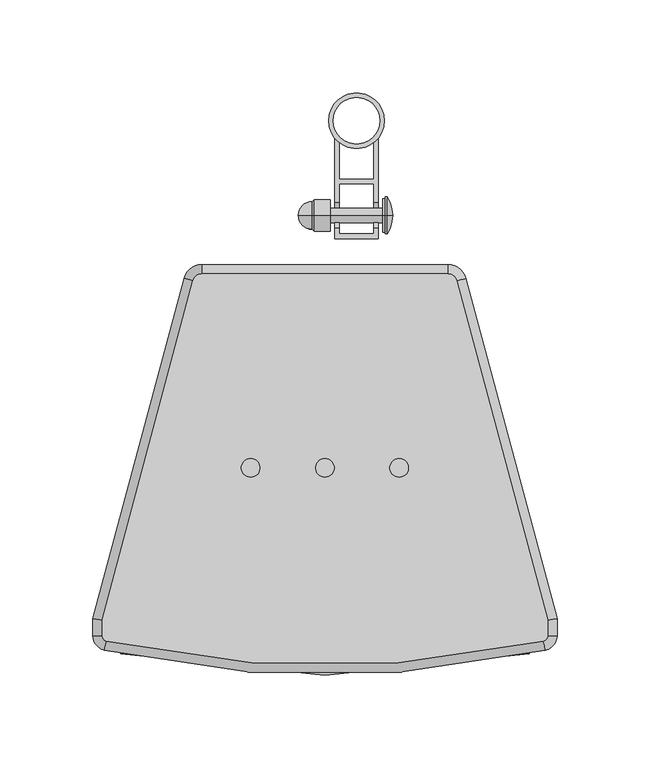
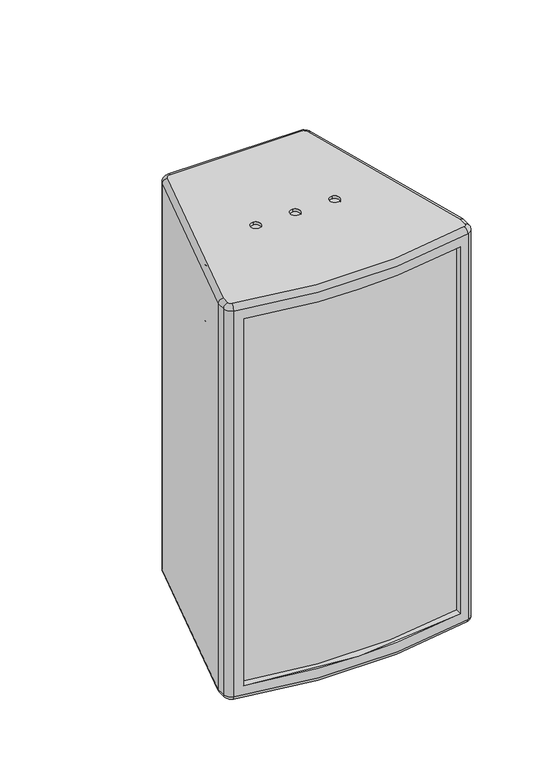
"""IFC4 building model written with IfcOpenShell, lengths in millimetres: proxy geometry, ePS8-WM01-WVM : ePS8-WM01-WVM."""

from ifc_helpers import new_model, si_unit, point, frame, frame_2d, origin, place, context, project, spatial, polyline, circle_curve, ellipse_curve, trimmed, segment, composite_curve, outline, extrude, source, transform, mapped, element, save
from ifc_brep_helpers import plane_surface, cylinder_surface, revolved_surface, advanced_brep


def generic_models_87593104(model_context):
    return source(origin(), model_context, "Body", "SolidModel", [
        advanced_brep(
        [(92.9999424, -313.0641688, 145.5390379), (92.9999424, -306.2137672, 145.5390379), (92.9999424, -306.2137672, -247.4609621), (92.9999424, -313.0641688, -247.4609621), (-88.0680581, -112.2059048, 160.5390379), (-137.0000576, -294.822613, 160.5390379), (-137.0000576, -303.3294755, 160.5390379), (-134.670601, -306.2535773, 160.5390379), (100.6704859, -306.2535773, 160.5390379), (102.9999424, -303.3294755, 160.5390379), (102.9999424, -294.822613, 160.5390379), (54.067943, -112.2059048, 160.5390379), (49.2383138, -108.5, 160.5390379), (-83.2384289, -108.5, 160.5390379), (-17.0000576, -218.0, 160.5390379), (-17.0000576, -208.0, 160.5390379), (-57.0000576, -218.0, 160.5390379), (-57.0000576, -208.0, 160.5390379), (22.9999424, -218.0, 160.5390379), (22.9999424, -208.0, 160.5390379), (-137.0000576, -294.822613, -262.4609621), (-88.0680581, -112.2059048, -262.4609621), (-83.2384289, -108.5, -262.4609621), (49.2383138, -108.5, -262.4609621), (54.067943, -112.2059048, -262.4609621), (102.9999424, -294.822613, -262.4609621), (102.9999424, -303.3294755, -262.4609621), (100.6704859, -306.2535773, -262.4609621), (-134.670601, -306.2535773, -262.4609621), (-137.0000576, -303.3294755, -262.4609621), (-17.0000576, -208.0, -262.4609621), (-17.0000576, -218.0, -262.4609621), (-57.0000576, -208.0, -262.4609621), (-57.0000576, -218.0, -262.4609621), (22.9999424, -208.0, -262.4609621), (22.9999424, -218.0, -262.4609621), (-83.2384289, -103.5, 155.5390379), (49.2383138, -103.5, 155.5390379), (49.2383138, -103.5, -257.4609621), (-83.2384289, -103.5, -257.4609621), (-64.3433398, -103.5, -30.9566602), (-75.6566602, -103.5, -30.9566602), (5.6566602, -103.5, -30.9566602), (-5.6566602, -103.5, -30.9566602), (5.6566602, -103.5, 39.0433398), (-5.6566602, -103.5, 39.0433398), (101.7880584, -311.1270803, 155.5390379), (-135.7881735, -311.1270803, 155.5390379), (-135.7881735, -311.1270803, -257.460962), (101.7880584, -311.1270803, -257.4609621), (-127.0000576, -313.0641688, 145.5390379), (-127.0000576, -313.0641688, -247.4609621), (107.9999424, -303.3294755, 155.5390379), (107.9999424, -303.3294755, -257.4609621), (107.9999424, -294.1643505, 155.5390379), (107.9999424, -294.1643505, -257.4609621), (58.8975721, -110.9118096, 155.5390379), (58.8975721, -110.9118096, -257.4609621), (-92.8976872, -110.9118096, 155.5390379), (-92.8976872, -110.9118096, -257.4609621), (-142.0000576, -294.1643505, 155.5390379), (-142.0000576, -294.1643505, -257.4609621), (-142.0000576, -303.3294755, 155.5390379), (-142.0000576, -303.3294755, -257.4609621), (-17.0000576, -208.0, 157.5390379), (-17.0000576, -218.0, 157.5390379), (-57.0000576, -208.0, 157.5390379), (-57.0000576, -218.0, 157.5390379), (22.9999424, -208.0, 157.5390379), (22.9999424, -218.0, 157.5390379), (-127.0000576, -306.3234349, 145.5390379), (-127.0000576, -306.3234349, -247.4609621), (-17.0000576, -208.0, -259.4609621), (-17.0000576, -218.0, -259.4609621), (-57.0000576, -208.0, -259.4609621), (-57.0000576, -218.0, -259.4609621), (22.9999424, -208.0, -259.4609621), (22.9999424, -218.0, -259.4609621), (-64.3433398, -106.5, -30.9566602), (-75.6566602, -106.5, -30.9566602), (5.6566602, -106.5, -30.9566602), (-5.6566602, -106.5, -30.9566602), (5.6566602, -106.5, 39.0433398), (-5.6566602, -106.5, 39.0433398)],
        [
            (0, 1),
            (1, 2),
            (2, 3),
            (3, 0),
            (4, 5),
            (5, 6),
            (6, 7, circle_curve(frame((-134.0000576, -303.3294755, 160.5390379), z_axis=(0.0, 0.0, 1.0), x_axis=(-0.22351449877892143, -0.9747006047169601, 0.0)), 3.0)),
            (7, 8, circle_curve(frame((-17.0000576, 206.8833804, 160.5390379), z_axis=(0.0, 0.0, 1.0), x_axis=(0.22351449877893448, -0.974700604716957, 0.0)), 526.4559755)),
            (8, 9, circle_curve(frame((99.9999424, -303.3294755, 160.5390379), z_axis=(0.0, 0.0, 1.0), x_axis=(1.0, 0.0, 0.0)), 3.0)),
            (9, 10),
            (10, 11),
            (11, 12, circle_curve(frame((49.2383138, -113.5, 160.5390379), z_axis=(0.0, 0.0, 1.0), x_axis=(0.0, 1.0, 0.0)), 5.0)),
            (12, 13),
            (13, 4, circle_curve(frame((-83.2384289, -113.5, 160.5390379), z_axis=(0.0, 0.0, 1.0), x_axis=(-0.965925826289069, 0.2588190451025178, 0.0)), 5.0)),
            (14, 15, circle_curve(frame((-17.0000576, -213.0, 160.5390379), z_axis=(0.0, 0.0, -1.0), x_axis=(0.0, -1.0, 0.0)), 5.0)),
            (15, 14, circle_curve(frame((-17.0000576, -213.0, 160.5390379), z_axis=(0.0, 0.0, -1.0), x_axis=(0.0, -1.0, 0.0)), 5.0)),
            (16, 17, circle_curve(frame((-57.0000576, -213.0, 160.5390379), z_axis=(0.0, 0.0, -1.0), x_axis=(0.0, -1.0, 0.0)), 5.0)),
            (17, 16, circle_curve(frame((-57.0000576, -213.0, 160.5390379), z_axis=(0.0, 0.0, -1.0), x_axis=(0.0, -1.0, 0.0)), 5.0)),
            (18, 19, circle_curve(frame((22.9999424, -213.0, 160.5390379), z_axis=(0.0, 0.0, -1.0), x_axis=(0.0, -1.0, 0.0)), 5.0)),
            (19, 18, circle_curve(frame((22.9999424, -213.0, 160.5390379), z_axis=(0.0, 0.0, -1.0), x_axis=(0.0, -1.0, 0.0)), 5.0)),
            (20, 21),
            (21, 22, circle_curve(frame((-83.2384289, -113.5, -262.4609621), z_axis=(0.0, 0.0, -1.0), x_axis=(-0.96592582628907, 0.25881904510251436, 0.0)), 5.0)),
            (22, 23),
            (23, 24, circle_curve(frame((49.2383138, -113.5, -262.4609621), z_axis=(0.0, 0.0, -1.0), x_axis=(0.0, 1.0, 0.0)), 5.0)),
            (24, 25),
            (25, 26),
            (26, 27, circle_curve(frame((99.9999424, -303.3294755, -262.4609621), z_axis=(0.0, 0.0, -1.0), x_axis=(1.0, 0.0, 0.0)), 3.0)),
            (27, 28, circle_curve(frame((-17.0000576, 206.8833804, -262.4609621), z_axis=(0.0, 0.0, -1.0), x_axis=(0.22351449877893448, -0.974700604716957, 0.0)), 526.4559755)),
            (28, 29, circle_curve(frame((-134.0000576, -303.3294755, -262.4609621), z_axis=(0.0, 0.0, -1.0), x_axis=(-0.22351449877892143, -0.9747006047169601, 0.0)), 3.0)),
            (29, 20),
            (30, 31, circle_curve(frame((-17.0000576, -213.0, -262.4609621), z_axis=(0.0, 0.0, 1.0), x_axis=(0.0, -1.0, 0.0)), 5.0)),
            (31, 30, circle_curve(frame((-17.0000576, -213.0, -262.4609621), z_axis=(0.0, 0.0, 1.0), x_axis=(0.0, -1.0, 0.0)), 5.0)),
            (32, 33, circle_curve(frame((-57.0000576, -213.0, -262.4609621), z_axis=(0.0, 0.0, 1.0), x_axis=(0.0, -1.0, 0.0)), 5.0)),
            (33, 32, circle_curve(frame((-57.0000576, -213.0, -262.4609621), z_axis=(0.0, 0.0, 1.0), x_axis=(0.0, -1.0, 0.0)), 5.0)),
            (34, 35, circle_curve(frame((22.9999424, -213.0, -262.4609621), z_axis=(0.0, 0.0, 1.0), x_axis=(0.0, -1.0, 0.0)), 5.0)),
            (35, 34, circle_curve(frame((22.9999424, -213.0, -262.4609621), z_axis=(0.0, 0.0, 1.0), x_axis=(0.0, -1.0, 0.0)), 5.0)),
            (36, 37),
            (37, 38),
            (38, 39),
            (39, 36),
            (40, 41, circle_curve(frame((-70.0, -103.5, -30.9566602), z_axis=(0.0, -1.0, 0.0), x_axis=(-1.0, 0.0, 0.0)), 5.6566602)),
            (41, 40, circle_curve(frame((-70.0, -103.5, -30.9566602), z_axis=(0.0, -1.0, 0.0), x_axis=(-1.0, 0.0, 0.0)), 5.6566602)),
            (42, 43, circle_curve(frame((0.0, -103.5, -30.9566602), z_axis=(0.0, -1.0, 0.0), x_axis=(-1.0, 0.0, 0.0)), 5.6566602)),
            (43, 42, circle_curve(frame((0.0, -103.5, -30.9566602), z_axis=(0.0, -1.0, 0.0), x_axis=(-1.0, 0.0, 0.0)), 5.6566602)),
            (44, 45, circle_curve(frame((0.0, -103.5, 39.0433398), z_axis=(0.0, -1.0, 0.0), x_axis=(-1.0, 0.0, 0.0)), 5.6566602)),
            (45, 44, circle_curve(frame((0.0, -103.5, 39.0433398), z_axis=(0.0, -1.0, 0.0), x_axis=(-1.0, 0.0, 0.0)), 5.6566602)),
            (46, 47, circle_curve(frame((-17.0000576, 206.8833804, 155.5390379), z_axis=(0.0, 0.0, -1.0), x_axis=(1.0, 0.0, 0.0)), 531.4559755)),
            (47, 48),
            (48, 49, circle_curve(frame((-17.0000576, 206.8833804, -257.4609621), z_axis=(0.0, 0.0, 1.0), x_axis=(1.0, 0.0, 0.0)), 531.4559755)),
            (49, 46),
            (50, 0, circle_curve(frame((-17.0000576, 206.8833804, 145.5390379), z_axis=(0.0, 0.0, 1.0), x_axis=(1.0, 0.0, 0.0)), 531.4559755)),
            (3, 51, circle_curve(frame((-17.0000576, 206.8833804, -247.4609621), z_axis=(0.0, 0.0, -1.0), x_axis=(1.0, 0.0, 0.0)), 531.4559755)),
            (51, 50),
            (52, 46, circle_curve(frame((99.9999424, -303.3294755, 155.5390379), z_axis=(0.0, 0.0, -1.0), x_axis=(1.0, 0.0, 0.0)), 8.0)),
            (49, 53, circle_curve(frame((99.9999424, -303.3294755, -257.4609621), z_axis=(0.0, 0.0, 1.0), x_axis=(1.0, 0.0, 0.0)), 8.0)),
            (53, 52),
            (54, 52),
            (53, 55),
            (55, 54),
            (56, 54),
            (55, 57),
            (57, 56),
            (37, 56, circle_curve(frame((49.2383138, -113.5, 155.5390379), z_axis=(0.0, 0.0, -1.0), x_axis=(1.0, 0.0, 0.0)), 10.0)),
            (57, 38, circle_curve(frame((49.2383138, -113.5, -257.4609621), z_axis=(0.0, 0.0, 1.0), x_axis=(1.0, 0.0, 0.0)), 10.0)),
            (58, 36, circle_curve(frame((-83.2384289, -113.5, 155.5390379), z_axis=(0.0, 0.0, -1.0), x_axis=(1.0, 0.0, 0.0)), 10.0)),
            (39, 59, circle_curve(frame((-83.2384289, -113.5, -257.4609621), z_axis=(0.0, 0.0, 1.0), x_axis=(1.0, 0.0, 0.0)), 10.0)),
            (59, 58),
            (60, 58),
            (59, 61),
            (61, 60),
            (62, 60),
            (61, 63),
            (63, 62),
            (47, 62, circle_curve(frame((-134.0000576, -303.3294755, 155.5390379), z_axis=(0.0, 0.0, -1.0), x_axis=(1.0, 0.0, 0.0)), 8.0)),
            (63, 48, circle_curve(frame((-134.0000576, -303.3294755, -257.4609621), z_axis=(0.0, 0.0, 1.0), x_axis=(1.0, 0.0, 0.0)), 8.0)),
            (64, 65, circle_curve(frame((-17.0000576, -213.0, 157.5390379), z_axis=(0.0, 0.0, 1.0), x_axis=(0.0, -1.0, 0.0)), 5.0)),
            (65, 64, circle_curve(frame((-17.0000576, -213.0, 157.5390379), z_axis=(0.0, 0.0, 1.0), x_axis=(0.0, -1.0, 0.0)), 5.0)),
            (66, 67, circle_curve(frame((-57.0000576, -213.0, 157.5390379), z_axis=(0.0, 0.0, 1.0), x_axis=(0.0, -1.0, 0.0)), 5.0)),
            (67, 66, circle_curve(frame((-57.0000576, -213.0, 157.5390379), z_axis=(0.0, 0.0, 1.0), x_axis=(0.0, -1.0, 0.0)), 5.0)),
            (68, 69, circle_curve(frame((22.9999424, -213.0, 157.5390379), z_axis=(0.0, 0.0, 1.0), x_axis=(0.0, -1.0, 0.0)), 5.0)),
            (69, 68, circle_curve(frame((22.9999424, -213.0, 157.5390379), z_axis=(0.0, 0.0, 1.0), x_axis=(0.0, -1.0, 0.0)), 5.0)),
            (64, 15),
            (14, 65),
            (66, 17),
            (16, 67),
            (68, 19),
            (18, 69),
            (50, 70),
            (70, 1, circle_curve(frame((-17.2541484, 203.4531533, 145.5390379), z_axis=(0.0, 0.0, 1.0), x_axis=(1.0, 0.0, 0.0)), 521.4559755)),
            (2, 71, circle_curve(frame((-17.2541484, 203.4531533, -247.4609621), z_axis=(0.0, 0.0, -1.0), x_axis=(1.0, 0.0, 0.0)), 521.4559755)),
            (71, 51),
            (70, 71),
            (4, 58, circle_curve(frame((-88.0680581, -112.2059048, 155.5390379), z_axis=(-0.2588190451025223, -0.9659258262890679, 0.0), x_axis=(-0.9659258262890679, 0.2588190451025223, 0.0)), 5.0)),
            (60, 5, ellipse_curve(frame((-137.0000576, -294.822613, 155.5390379), z_axis=(0.13052619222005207, 0.9914448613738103, 0.0), x_axis=(0.9914448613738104, -0.13052619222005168, 0.0)), 5.0431448, 5.0)),
            (13, 36, circle_curve(frame((-83.2384289, -108.5, 155.5390379), z_axis=(-0.9999999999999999, 0.0, 0.0), x_axis=(0.0, 0.9999999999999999, 0.0)), 5.0)),
            (12, 37, circle_curve(frame((49.2383138, -108.5, 155.5390379), z_axis=(-1.0, 0.0, 0.0), x_axis=(0.0, 1.0, 0.0)), 5.0)),
            (11, 56, circle_curve(frame((54.067943, -112.2059048, 155.5390379), z_axis=(-0.25881904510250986, 0.9659258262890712, 0.0), x_axis=(0.9659258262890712, 0.25881904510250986, 0.0)), 5.0)),
            (10, 54, ellipse_curve(frame((102.9999424, -294.822613, 155.5390379), z_axis=(-0.13052619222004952, 0.9914448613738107, 0.0), x_axis=(0.9914448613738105, 0.1305261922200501, 0.0)), 5.0431448, 5.0)),
            (62, 6, circle_curve(frame((-137.0000576, -303.3294755, 155.5390379), z_axis=(0.0, 1.0, 0.0), x_axis=(-1.0, 0.0, 0.0)), 5.0)),
            (9, 52, circle_curve(frame((102.9999424, -303.3294755, 155.5390379), z_axis=(0.0, 1.0, 0.0), x_axis=(1.0, 0.0, 0.0)), 5.0)),
            (8, 46, circle_curve(frame((100.6704859, -306.2535773, 155.5390379), z_axis=(0.9747006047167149, 0.22351449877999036, 0.0), x_axis=(0.22351449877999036, -0.9747006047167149, 0.0)), 5.0)),
            (7, 47, circle_curve(frame((-134.670601, -306.2535773, 155.5390379), z_axis=(0.9747006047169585, -0.22351449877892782, 0.0), x_axis=(-0.22351449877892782, -0.9747006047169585, 0.0)), 5.0)),
            (59, 21, circle_curve(frame((-88.0680581, -112.2059048, -257.4609621), z_axis=(-0.25881904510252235, -0.9659258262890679, 0.0), x_axis=(-0.9659258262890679, 0.25881904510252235, 0.0)), 5.0)),
            (20, 61, ellipse_curve(frame((-137.0000576, -294.822613, -257.4609621), z_axis=(0.1305261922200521, 0.9914448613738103, 0.0), x_axis=(0.9914448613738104, -0.13052619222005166, 0.0)), 5.0431448, 5.0)),
            (39, 22, circle_curve(frame((-83.2384289, -108.5, -257.4609621), z_axis=(-1.0, 0.0, 0.0), x_axis=(0.0, 1.0, 0.0)), 5.0)),
            (38, 23, circle_curve(frame((49.2383138, -108.5, -257.4609621), z_axis=(-1.0, 0.0, 0.0), x_axis=(0.0, 1.0, 0.0)), 5.0)),
            (57, 24, circle_curve(frame((54.067943, -112.2059048, -257.4609621), z_axis=(-0.2588190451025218, 0.9659258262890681, 0.0), x_axis=(0.9659258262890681, 0.2588190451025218, 0.0)), 5.0)),
            (55, 25, ellipse_curve(frame((102.9999424, -294.822613, -257.4609621), z_axis=(-0.13052619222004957, 0.9914448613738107, 0.0), x_axis=(0.9914448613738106, 0.13052619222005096, 0.0)), 5.0431448, 5.0)),
            (29, 63, circle_curve(frame((-137.0000576, -303.3294755, -257.4609621), z_axis=(0.0, 1.0, 0.0), x_axis=(-1.0, 0.0, 0.0)), 5.0)),
            (53, 26, circle_curve(frame((102.9999424, -303.3294755, -257.4609621), z_axis=(0.0, 1.0, 0.0), x_axis=(1.0, 0.0, 0.0)), 5.0)),
            (49, 27, circle_curve(frame((100.6704859, -306.2535773, -257.4609621), z_axis=(0.9747006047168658, 0.22351449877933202, 0.0), x_axis=(0.22351449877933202, -0.9747006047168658, 0.0)), 5.0)),
            (48, 28, circle_curve(frame((-134.670601, -306.2535773, -257.4609621), z_axis=(0.9747006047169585, -0.22351449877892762, 0.0), x_axis=(-0.22351449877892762, -0.9747006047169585, 0.0)), 5.0)),
            (72, 73, circle_curve(frame((-17.0000576, -213.0, -259.4609621), z_axis=(0.0, 0.0, -1.0), x_axis=(0.0, -1.0, 0.0)), 5.0)),
            (73, 72, circle_curve(frame((-17.0000576, -213.0, -259.4609621), z_axis=(0.0, 0.0, -1.0), x_axis=(0.0, -1.0, 0.0)), 5.0)),
            (74, 75, circle_curve(frame((-57.0000576, -213.0, -259.4609621), z_axis=(0.0, 0.0, -1.0), x_axis=(0.0, -1.0, 0.0)), 5.0)),
            (75, 74, circle_curve(frame((-57.0000576, -213.0, -259.4609621), z_axis=(0.0, 0.0, -1.0), x_axis=(0.0, -1.0, 0.0)), 5.0)),
            (76, 77, circle_curve(frame((22.9999424, -213.0, -259.4609621), z_axis=(0.0, 0.0, -1.0), x_axis=(0.0, -1.0, 0.0)), 5.0)),
            (77, 76, circle_curve(frame((22.9999424, -213.0, -259.4609621), z_axis=(0.0, 0.0, -1.0), x_axis=(0.0, -1.0, 0.0)), 5.0)),
            (73, 31),
            (30, 72),
            (75, 33),
            (32, 74),
            (77, 35),
            (34, 76),
            (78, 79, circle_curve(frame((-70.0, -106.5, -30.9566602), z_axis=(0.0, 1.0, 0.0), x_axis=(-1.0, 0.0, 0.0)), 5.6566602)),
            (79, 78, circle_curve(frame((-70.0, -106.5, -30.9566602), z_axis=(0.0, 1.0, 0.0), x_axis=(-1.0, 0.0, 0.0)), 5.6566602)),
            (80, 81, circle_curve(frame((0.0, -106.5, -30.9566602), z_axis=(0.0, 1.0, 0.0), x_axis=(-1.0, 0.0, 0.0)), 5.6566602)),
            (81, 80, circle_curve(frame((0.0, -106.5, -30.9566602), z_axis=(0.0, 1.0, 0.0), x_axis=(-1.0, 0.0, 0.0)), 5.6566602)),
            (82, 83, circle_curve(frame((0.0, -106.5, 39.0433398), z_axis=(0.0, 1.0, 0.0), x_axis=(-1.0, 0.0, 0.0)), 5.6566602)),
            (83, 82, circle_curve(frame((0.0, -106.5, 39.0433398), z_axis=(0.0, 1.0, 0.0), x_axis=(-1.0, 0.0, 0.0)), 5.6566602)),
            (79, 41),
            (40, 78),
            (81, 43),
            (42, 80),
            (83, 45),
            (44, 82),
        ],
        [
            plane_surface(frame((92.9999424, -313.0641688, 145.5390379), z_axis=(-1.0, 0.0, 0.0), x_axis=(0.0, 0.0, -1.0))),
            plane_surface(frame((107.9999424, -303.3294755, 160.5390379), z_axis=(0.0, 0.0, 1.0), x_axis=(0.0, 1.0, 0.0))),
            plane_surface(frame((107.9999424, -303.3294755, -262.4609621), z_axis=(0.0, 0.0, -1.0), x_axis=(0.0, -1.0, 0.0))),
            plane_surface(frame((49.2383138, -103.5, 160.5390379), z_axis=(0.0, 1.0, 0.0), x_axis=(0.0, 0.0, -1.0))),
            cylinder_surface(frame((-17.0000576, 206.8833804, -262.4609621), z_axis=(0.0, 0.0, 1.0), x_axis=(1.0, 0.0, 0.0)), 531.4559755),
            cylinder_surface(frame((99.9999424, -303.3294755, -262.4609621), z_axis=(0.0, 0.0, 1.0), x_axis=(1.0, 0.0, 0.0)), 8.0),
            plane_surface(frame((107.9999424, -303.3294755, 160.5390379), z_axis=(1.0, 0.0, 0.0), x_axis=(0.0, 0.0, -1.0))),
            plane_surface(frame((107.9999424, -294.1643505, 160.5390379), z_axis=(0.9659258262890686, 0.25881904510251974, 0.0), x_axis=(0.0, 0.0, -1.0))),
            cylinder_surface(frame((49.2383138, -113.5, -262.4609621), z_axis=(0.0, 0.0, 1.0), x_axis=(1.0, 0.0, 0.0)), 10.0),
            cylinder_surface(frame((-83.2384289, -113.5, -262.4609621), z_axis=(0.0, 0.0, 1.0), x_axis=(1.0, 0.0, 0.0)), 10.0),
            plane_surface(frame((-92.8976872, -110.9118096, 160.5390379), z_axis=(-0.965925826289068, 0.2588190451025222, 0.0), x_axis=(0.0, 0.0, -1.0))),
            plane_surface(frame((-142.0000576, -294.1643505, 160.5390379), z_axis=(-1.0, 0.0, 0.0), x_axis=(0.0, 0.0, -1.0))),
            cylinder_surface(frame((-134.0000576, -303.3294755, -262.4609621), z_axis=(0.0, 0.0, 1.0), x_axis=(1.0, 0.0, 0.0)), 8.0),
            plane_surface(frame((-17.0000576, -218.0, 157.5390379), z_axis=(0.0, 0.0, 1.0), x_axis=(-1.0, 0.0, 0.0))),
            revolved_surface(polyline([(-17.0000576, -218.0, 160.5390379), (-17.0000576, -218.0, 157.5390379)]), (-17.0000576, -213.0, 157.5390379), (0.0, 0.0, 1.0)),
            revolved_surface(polyline([(-57.0000576, -218.0, 160.5390379), (-57.0000576, -218.0, 157.5390379)]), (-57.0000576, -213.0, 160.5390379), (0.0, 0.0, 1.0)),
            revolved_surface(polyline([(22.9999424, -218.0, 160.5390379), (22.9999424, -218.0, 157.5390379)]), (22.9999424, -213.0, 160.5390379), (0.0, 0.0, 1.0)),
            plane_surface(frame((92.9999424, -370.7599178, 145.5390379), z_axis=(0.0, 0.0, -1.0), x_axis=(0.0, 1.0, 0.0))),
            plane_surface(frame((92.9999424, -370.7599178, -247.4609621), z_axis=(0.0, 0.0, 1.0), x_axis=(0.0, -1.0, 0.0))),
            cylinder_surface(frame((-17.2541484, 203.4531533, -247.4609621), z_axis=(0.0, 0.0, -1.0), x_axis=(1.0, 0.0, 0.0)), 521.4559755),
            plane_surface(frame((-127.0000576, -306.3234349, 145.5390379), z_axis=(1.0, 0.0, 0.0), x_axis=(0.0, 0.0, -1.0))),
            cylinder_surface(frame((-137.1704284, -295.4584457, 155.5390379), z_axis=(0.2588190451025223, 0.9659258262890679, 0.0), x_axis=(-0.9659258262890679, 0.2588190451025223, 0.0)), 5.0),
            revolved_surface(trimmed(ellipse_curve(frame((-88.0680581, -112.2059048, 155.5390379), z_axis=(-0.2588190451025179, -0.965925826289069, 0.0), x_axis=(-0.965925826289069, 0.2588190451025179, 0.0)), 5.0, 5.0), [point((-88.0680581, -112.2059048, 160.5390379))], [point((-92.8976872, -110.9118096, 155.5390379))], True, "CARTESIAN"), (-83.2384289, -113.5, 160.5390379), (0.0, 0.0, -1.0)),
            cylinder_surface(frame((-83.2384289, -108.5, 155.5390379), z_axis=(1.0, 0.0, 0.0), x_axis=(0.0, 1.0, 0.0)), 5.0),
            revolved_surface(trimmed(ellipse_curve(frame((49.2383138, -108.5, 155.5390379), z_axis=(-1.0, 0.0, 0.0), x_axis=(0.0, 1.0, 0.0)), 5.0, 5.0), [point((49.2383138, -108.5, 160.5390379))], [point((49.2383138, -103.5, 155.5390379))], True, "CARTESIAN"), (49.2383138, -113.5, 160.5390379), (0.0, 0.0, -1.0)),
            cylinder_surface(frame((54.067943, -112.2059048, 155.5390379), z_axis=(0.2588190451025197, -0.9659258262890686, 0.0), x_axis=(0.9659258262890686, 0.2588190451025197, 0.0)), 5.0),
            cylinder_surface(frame((-137.0000576, -303.3294755, 155.5390379), z_axis=(0.0, 1.0, 0.0), x_axis=(-1.0, 0.0, 0.0)), 5.0),
            cylinder_surface(frame((102.9999424, -294.1643505, 155.5390379), z_axis=(0.0, -1.0, 0.0), x_axis=(1.0, 0.0, 0.0)), 5.0),
            revolved_surface(trimmed(ellipse_curve(frame((102.9999424, -303.3294755, 155.5390379), z_axis=(0.0, 1.0, 0.0), x_axis=(1.0, 0.0, 0.0)), 5.0, 5.0), [point((102.9999424, -303.3294755, 160.5390379))], [point((107.9999424, -303.3294755, 155.5390379))], True, "CARTESIAN"), (99.9999424, -303.3294755, 160.5390379), (0.0, 0.0, -1.0)),
            revolved_surface(trimmed(ellipse_curve(frame((100.6704859, -306.2535773, 155.5390379), z_axis=(0.974700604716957, 0.22351449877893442, 0.0), x_axis=(0.22351449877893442, -0.974700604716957, 0.0)), 5.0, 5.0), [point((100.6704859, -306.2535773, 160.5390379))], [point((101.7880584, -311.1270803, 155.5390379))], True, "CARTESIAN"), (-17.0000576, 206.8833804, 160.5390379), (0.0, 0.0, -1.0)),
            revolved_surface(trimmed(ellipse_curve(frame((-134.670601, -306.2535773, 155.5390379), z_axis=(0.9747006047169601, -0.22351449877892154, 0.0), x_axis=(-0.22351449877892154, -0.9747006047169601, 0.0)), 5.0, 5.0), [point((-134.670601, -306.2535773, 160.5390379))], [point((-135.7881735, -311.1270803, 155.5390379))], True, "CARTESIAN"), (-134.0000576, -303.3294755, 160.5390379), (0.0, 0.0, -1.0)),
            cylinder_surface(frame((-137.1704284, -295.4584457, -257.4609621), z_axis=(0.25881904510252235, 0.9659258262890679, 0.0), x_axis=(-0.9659258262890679, 0.25881904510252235, 0.0)), 5.0),
            revolved_surface(trimmed(ellipse_curve(frame((-88.0680581, -112.2059048, -257.4609621), z_axis=(-0.2588190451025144, -0.96592582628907, 0.0), x_axis=(-0.96592582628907, 0.2588190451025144, 0.0)), 5.0, 5.0), [point((-92.8976872, -110.9118096, -257.4609621))], [point((-88.0680581, -112.2059048, -262.4609621))], True, "CARTESIAN"), (-83.2384289, -113.5, -262.4609621), (0.0, 0.0, -1.0)),
            cylinder_surface(frame((-83.2384289, -108.5, -257.4609621), z_axis=(1.0, 0.0, 0.0), x_axis=(0.0, 1.0, 0.0)), 5.0),
            revolved_surface(trimmed(ellipse_curve(frame((49.2383138, -108.5, -257.4609621), z_axis=(-1.0, 0.0, 0.0), x_axis=(0.0, 1.0, 0.0)), 5.0, 5.0), [point((49.2383138, -103.5, -257.4609621))], [point((49.2383138, -108.5, -262.4609621))], True, "CARTESIAN"), (49.2383138, -113.5, -262.4609621), (0.0, 0.0, -1.0)),
            cylinder_surface(frame((54.067943, -112.2059048, -257.4609621), z_axis=(0.25881904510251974, -0.9659258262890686, 0.0), x_axis=(0.9659258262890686, 0.25881904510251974, 0.0)), 5.0),
            cylinder_surface(frame((-137.0000576, -303.3294755, -257.4609621), z_axis=(0.0, 1.0, 0.0), x_axis=(-1.0, 0.0, 0.0)), 5.0),
            cylinder_surface(frame((102.9999424, -294.1643505, -257.4609621), z_axis=(0.0, -1.0, 0.0), x_axis=(1.0, 0.0, 0.0)), 5.0),
            revolved_surface(trimmed(ellipse_curve(frame((102.9999424, -303.3294755, -257.4609621), z_axis=(0.0, 1.0, 0.0), x_axis=(1.0, 0.0, 0.0)), 5.0, 5.0), [point((107.9999424, -303.3294755, -257.4609621))], [point((102.9999424, -303.3294755, -262.4609621))], True, "CARTESIAN"), (99.9999424, -303.3294755, -262.4609621), (0.0, 0.0, -1.0)),
            revolved_surface(trimmed(ellipse_curve(frame((100.6704859, -306.2535773, -257.4609621), z_axis=(0.974700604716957, 0.22351449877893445, 0.0), x_axis=(0.22351449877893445, -0.974700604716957, 0.0)), 5.0, 5.0), [point((101.7880584, -311.1270803, -257.4609621))], [point((100.6704859, -306.2535773, -262.4609621))], True, "CARTESIAN"), (-17.0000576, 206.8833804, -262.4609621), (0.0, 0.0, -1.0)),
            revolved_surface(trimmed(ellipse_curve(frame((-134.670601, -306.2535773, -257.4609621), z_axis=(0.9747006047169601, -0.22351449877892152, 0.0), x_axis=(-0.22351449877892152, -0.9747006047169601, 0.0)), 5.0, 5.0), [point((-135.7881735, -311.1270803, -257.4609621))], [point((-134.670601, -306.2535773, -262.4609621))], True, "CARTESIAN"), (-134.0000576, -303.3294755, -262.4609621), (0.0, 0.0, -1.0)),
            plane_surface(frame((-17.0000576, -218.0, -259.4609621), z_axis=(0.0, 0.0, -1.0), x_axis=(1.0, 0.0, 0.0))),
            revolved_surface(polyline([(-17.0000576, -218.0, -259.4609621), (-17.0000576, -218.0, -262.4609621)]), (-17.0000576, -213.0, -265.4609621), (0.0, 0.0, 1.0)),
            revolved_surface(polyline([(-57.0000576, -218.0, -259.4609621), (-57.0000576, -218.0, -262.4609621)]), (-57.0000576, -213.0, -262.4609621), (0.0, 0.0, 1.0)),
            revolved_surface(polyline([(22.9999424, -218.0, -259.4609621), (22.9999424, -218.0, -262.4609621)]), (22.9999424, -213.0, -262.4609621), (0.0, 0.0, 1.0)),
            plane_surface(frame((-75.6566602, -106.5, -30.9566602), z_axis=(0.0, 1.0, 0.0), x_axis=(0.0, 0.0, -1.0))),
            revolved_surface(polyline([(-75.6566602, -103.5, -30.9566602), (-75.6566602, -106.5, -30.9566602)]), (-70.0, -106.5, -30.9566602), (0.0, 1.0, 0.0)),
            revolved_surface(polyline([(-5.6566602, -103.5, -30.9566602), (-5.6566602, -106.5, -30.9566602)]), (0.0, -103.5, -30.9566602), (0.0, 1.0, 0.0)),
            revolved_surface(polyline([(-5.6566602, -103.5, 39.0433398), (-5.6566602, -106.5, 39.0433398)]), (0.0, -103.5, 39.0433398), (0.0, 1.0, 0.0)),
        ],
        [
            (0, [[1, 2, 3, 4]]),
            (1, [[5, 6, 7, 8, 9, 10, 11, 12, 13, 14], [15, 16], [17, 18], [19, 20]]),
            (2, [[21, 22, 23, 24, 25, 26, 27, 28, 29, 30], [31, 32], [33, 34], [35, 36]]),
            (3, [[37, 38, 39, 40], [41, 42], [43, 44], [45, 46]]),
            (4, [[47, 48, 49, 50], [51, -4, 52, 53]]),
            (5, [[54, -50, 55, 56]]),
            (6, [[57, -56, 58, 59]]),
            (7, [[60, -59, 61, 62]]),
            (8, [[63, -62, 64, -38]]),
            (9, [[65, -40, 66, 67]]),
            (10, [[68, -67, 69, 70]]),
            (11, [[71, -70, 72, 73]]),
            (12, [[74, -73, 75, -48]]),
            (13, [[76, 77]]),
            (13, [[78, 79]]),
            (13, [[80, 81]]),
            (14, [[-76, 82, -15, 83]]),
            (14, [[-77, -83, -16, -82]]),
            (15, [[-78, 84, -17, 85]]),
            (15, [[-79, -85, -18, -84]]),
            (16, [[-80, 86, -19, 87]]),
            (16, [[-81, -87, -20, -86]]),
            (17, [[88, 89, -1, -51]]),
            (18, [[-3, 90, 91, -52]]),
            (19, [[-89, 92, -90, -2]]),
            (20, [[-88, -53, -91, -92]]),
            (21, [[93, -68, 94, -5]]),
            (22, [[-93, -14, 95, -65]]),
            (23, [[-95, -13, 96, -37]]),
            (24, [[-96, -12, 97, -63]]),
            (25, [[-97, -11, 98, -60]]),
            (26, [[-94, -71, 99, -6]]),
            (27, [[-98, -10, 100, -57]]),
            (28, [[-100, -9, 101, -54]]),
            (29, [[-101, -8, 102, -47]]),
            (30, [[-99, -74, -102, -7]]),
            (31, [[103, -21, 104, -69]]),
            (32, [[-103, -66, 105, -22]]),
            (33, [[-105, -39, 106, -23]]),
            (34, [[-106, -64, 107, -24]]),
            (35, [[-107, -61, 108, -25]]),
            (36, [[-104, -30, 109, -72]]),
            (37, [[-108, -58, 110, -26]]),
            (38, [[-110, -55, 111, -27]]),
            (39, [[-111, -49, 112, -28]]),
            (40, [[-109, -29, -112, -75]]),
            (41, [[113, 114]]),
            (41, [[115, 116]]),
            (41, [[117, 118]]),
            (42, [[-114, 119, -31, 120]]),
            (42, [[-113, -120, -32, -119]]),
            (43, [[-116, 121, -33, 122]]),
            (43, [[-115, -122, -34, -121]]),
            (44, [[-118, 123, -35, 124]]),
            (44, [[-117, -124, -36, -123]]),
            (45, [[125, 126]]),
            (45, [[127, 128]]),
            (45, [[129, 130]]),
            (46, [[-126, 131, -41, 132]]),
            (46, [[-125, -132, -42, -131]]),
            (47, [[-128, 133, -43, 134]]),
            (47, [[-127, -134, -44, -133]]),
            (48, [[-130, 135, -45, 136]]),
            (48, [[-129, -136, -46, -135]]),
        ],
    ),
        advanced_brep(
        [(16.4820858, -77.0, -39.5), (16.4820858, -77.0, -19.5), (19.4412891, -77.0, -29.5), (15.45, -77.0, -39.5), (15.45, -77.0, -19.5), (15.45, -77.0, -38.5), (15.45, -77.0, -20.5), (14.25, -77.0, -38.5), (14.25, -77.0, -20.5), (14.25, -77.0, -33.5), (14.25, -77.0, -25.5), (-14.25, -77.0, -33.5), (-14.25, -77.0, -25.5), (-14.25, -77.0, -38.018295), (-14.25, -77.0, -20.981705), (-22.8324989, -77.0, -38.018295), (-22.8324989, -77.0, -20.981705), (-23.85, -77.0, -37.0007939), (-23.85, -77.0, -21.9992061), (-31.3507939, -77.0, -29.5)],
        [
            (0, 1, circle_curve(frame((16.4820858, -77.0, -29.5), z_axis=(1.0, 0.0, 0.0), x_axis=(0.0, 0.0, 1.0)), 10.0)),
            (1, 2, circle_curve(frame((1.2644996, -77.0, -29.4410373), z_axis=(0.0, 1.0, 0.0), x_axis=(1.0, 0.0, 0.0)), 18.1768851)),
            (2, 0, circle_curve(frame((1.2644996, -77.0, -29.5589627), z_axis=(0.0, 1.0, 0.0), x_axis=(1.0, 0.0, 0.0)), 18.1768851)),
            (1, 0, circle_curve(frame((16.4820858, -77.0, -29.5), z_axis=(1.0, 0.0, 0.0), x_axis=(0.0, 0.0, 1.0)), 10.0)),
            (3, 4, circle_curve(frame((15.45, -77.0, -29.5), z_axis=(1.0, 0.0, 0.0), x_axis=(0.0, 0.0, 1.0)), 10.0)),
            (4, 1),
            (0, 3),
            (4, 3, circle_curve(frame((15.45, -77.0, -29.5), z_axis=(1.0, 0.0, 0.0), x_axis=(0.0, 0.0, 1.0)), 10.0)),
            (5, 6, circle_curve(frame((15.45, -77.0, -29.5), z_axis=(1.0, 0.0, 0.0), x_axis=(0.0, 0.0, 1.0)), 9.0)),
            (6, 4),
            (3, 5),
            (6, 5, circle_curve(frame((15.45, -77.0, -29.5), z_axis=(1.0, 0.0, 0.0), x_axis=(0.0, 0.0, 1.0)), 9.0)),
            (7, 8, circle_curve(frame((14.25, -77.0, -29.5), z_axis=(1.0, 0.0, 0.0), x_axis=(0.0, 0.0, 1.0)), 9.0)),
            (8, 6),
            (5, 7),
            (8, 7, circle_curve(frame((14.25, -77.0, -29.5), z_axis=(1.0, 0.0, 0.0), x_axis=(0.0, 0.0, 1.0)), 9.0)),
            (9, 10, circle_curve(frame((14.25, -77.0, -29.5), z_axis=(1.0, 0.0, 0.0), x_axis=(0.0, 0.0, 1.0)), 4.0)),
            (10, 8),
            (7, 9),
            (10, 9, circle_curve(frame((14.25, -77.0, -29.5), z_axis=(1.0, 0.0, 0.0), x_axis=(0.0, 0.0, 1.0)), 4.0)),
            (11, 12, circle_curve(frame((-14.25, -77.0, -29.5), z_axis=(1.0, 0.0, 0.0), x_axis=(0.0, 0.0, 1.0)), 4.0)),
            (12, 10),
            (9, 11),
            (12, 11, circle_curve(frame((-14.25, -77.0, -29.5), z_axis=(1.0, 0.0, 0.0), x_axis=(0.0, 0.0, 1.0)), 4.0)),
            (13, 14, circle_curve(frame((-14.25, -77.0, -29.5), z_axis=(1.0, 0.0, 0.0), x_axis=(0.0, 0.0, 1.0)), 8.518295)),
            (14, 12),
            (11, 13),
            (14, 13, circle_curve(frame((-14.25, -77.0, -29.5), z_axis=(1.0, 0.0, 0.0), x_axis=(0.0, 0.0, 1.0)), 8.518295)),
            (15, 16, circle_curve(frame((-22.8324989, -77.0, -29.5), z_axis=(1.0, 0.0, 0.0), x_axis=(0.0, 0.0, 1.0)), 8.518295)),
            (16, 14),
            (13, 15),
            (16, 15, circle_curve(frame((-22.8324989, -77.0, -29.5), z_axis=(1.0, 0.0, 0.0), x_axis=(0.0, 0.0, 1.0)), 8.518295)),
            (17, 18, circle_curve(frame((-23.85, -77.0, -29.5), z_axis=(1.0, 0.0, 0.0), x_axis=(0.0, 0.0, 1.0)), 7.5007939)),
            (18, 16),
            (15, 17),
            (18, 17, circle_curve(frame((-23.85, -77.0, -29.5), z_axis=(1.0, 0.0, 0.0), x_axis=(0.0, 0.0, 1.0)), 7.5007939)),
            (19, 18, circle_curve(frame((-23.85, -77.0, -29.5), z_axis=(0.0, 1.0, 0.0), x_axis=(1.0, 0.0, 0.0)), 7.5007939)),
            (17, 19, circle_curve(frame((-23.85, -77.0, -29.5), z_axis=(0.0, 1.0, 0.0), x_axis=(1.0, 0.0, 0.0)), 7.5007939)),
        ],
        [
            revolved_surface(trimmed(ellipse_curve(frame((1.2644996, -77.0, -29.4410373), z_axis=(0.0, -1.0, 0.0), x_axis=(1.0, 0.0, 0.0)), 18.1768851, 18.1768851), [point((19.4412891, -77.0, -29.5))], [point((16.4820858, -77.0, -19.5))], True, "CARTESIAN"), (-34.7415568, -77.0, -29.5), (-1.0, 0.0, 0.0)),
            cylinder_surface(frame((-34.7415568, -77.0, -29.5), z_axis=(-1.0, 0.0, 0.0), x_axis=(0.0, 0.0, 1.0)), 10.0),
            plane_surface(frame((15.45, -77.0, -29.5), z_axis=(-1.0, 0.0, 0.0), x_axis=(0.0, 0.0, 1.0))),
            cylinder_surface(frame((-34.7415568, -77.0, -29.5), z_axis=(-1.0, 0.0, 0.0), x_axis=(0.0, 0.0, 1.0)), 9.0),
            plane_surface(frame((14.25, -77.0, -29.5), z_axis=(-1.0, 0.0, 0.0), x_axis=(0.0, 0.0, 1.0))),
            cylinder_surface(frame((-34.7415568, -77.0, -29.5), z_axis=(-1.0, 0.0, 0.0), x_axis=(0.0, 0.0, 1.0)), 4.0),
            plane_surface(frame((-14.25, -77.0, -29.5), z_axis=(1.0, 0.0, 0.0), x_axis=(0.0, 0.0, 1.0))),
            cylinder_surface(frame((-34.7415568, -77.0, -29.5), z_axis=(-1.0, 0.0, 0.0), x_axis=(0.0, 0.0, 1.0)), 8.518295),
            revolved_surface(polyline([(-22.8324989, -77.0, -20.981705), (-23.85, -77.0, -21.9992061)]), (-34.7415568, -77.0, -29.5), (-1.0, 0.0, 0.0)),
            revolved_surface(trimmed(ellipse_curve(frame((-23.85, -77.0, -29.5), z_axis=(0.0, -1.0, 0.0), x_axis=(1.0, 0.0, 0.0)), 7.5007939, 7.5007939), [point((-23.85, -77.0, -21.9992061))], [point((-31.3507939, -77.0, -29.5))], True, "CARTESIAN"), (-34.7415568, -77.0, -29.5), (-1.0, 0.0, 0.0)),
        ],
        [
            (0, [[1, 2, 3]]),
            (0, [[4, -3, -2]]),
            (1, [[5, 6, -1, 7]]),
            (1, [[8, -7, -4, -6]]),
            (2, [[9, 10, -5, 11]]),
            (2, [[12, -11, -8, -10]]),
            (3, [[13, 14, -9, 15]]),
            (3, [[16, -15, -12, -14]]),
            (4, [[17, 18, -13, 19]]),
            (4, [[20, -19, -16, -18]]),
            (5, [[21, 22, -17, 23]]),
            (5, [[24, -23, -20, -22]]),
            (6, [[25, 26, -21, 27]]),
            (6, [[28, -27, -24, -26]]),
            (7, [[29, 30, -25, 31]]),
            (7, [[32, -31, -28, -30]]),
            (8, [[33, 34, -29, 35]]),
            (8, [[36, -35, -32, -34]]),
            (9, [[37, -33, 38]]),
            (9, [[-38, -36, -37]]),
        ],
    ),
        advanced_brep(
        [(16.4820858, -77.0, 20.55), (16.4820858, -77.0, 40.55), (19.4412891, -77.0, 30.55), (15.45, -77.0, 20.55), (15.45, -77.0, 40.55), (15.45, -77.0, 21.55), (15.45, -77.0, 39.55), (14.25, -77.0, 21.55), (14.25, -77.0, 39.55), (14.25, -77.0, 26.55), (14.25, -77.0, 34.55), (-14.25, -77.0, 26.55), (-14.25, -77.0, 34.55), (-14.25, -77.0, 22.031705), (-14.25, -77.0, 39.068295), (-22.8324989, -77.0, 22.031705), (-22.8324989, -77.0, 39.068295), (-23.85, -77.0, 23.0492061), (-23.85, -77.0, 38.0507939), (-31.3507939, -77.0, 30.55)],
        [
            (0, 1, circle_curve(frame((16.4820858, -77.0, 30.55), z_axis=(1.0, 0.0, 0.0), x_axis=(0.0, 0.0, 1.0)), 10.0)),
            (1, 2, circle_curve(frame((1.2644996, -77.0, 30.6089627), z_axis=(0.0, 1.0, 0.0), x_axis=(1.0, 0.0, 0.0)), 18.1768851)),
            (2, 0, circle_curve(frame((1.2644996, -77.0, 30.4910373), z_axis=(0.0, 1.0, 0.0), x_axis=(1.0, 0.0, 0.0)), 18.1768851)),
            (1, 0, circle_curve(frame((16.4820858, -77.0, 30.55), z_axis=(1.0, 0.0, 0.0), x_axis=(0.0, 0.0, 1.0)), 10.0)),
            (3, 4, circle_curve(frame((15.45, -77.0, 30.55), z_axis=(1.0, 0.0, 0.0), x_axis=(0.0, 0.0, 1.0)), 10.0)),
            (4, 1),
            (0, 3),
            (4, 3, circle_curve(frame((15.45, -77.0, 30.55), z_axis=(1.0, 0.0, 0.0), x_axis=(0.0, 0.0, 1.0)), 10.0)),
            (5, 6, circle_curve(frame((15.45, -77.0, 30.55), z_axis=(1.0, 0.0, 0.0), x_axis=(0.0, 0.0, 1.0)), 9.0)),
            (6, 4),
            (3, 5),
            (6, 5, circle_curve(frame((15.45, -77.0, 30.55), z_axis=(1.0, 0.0, 0.0), x_axis=(0.0, 0.0, 1.0)), 9.0)),
            (7, 8, circle_curve(frame((14.25, -77.0, 30.55), z_axis=(1.0, 0.0, 0.0), x_axis=(0.0, 0.0, 1.0)), 9.0)),
            (8, 6),
            (5, 7),
            (8, 7, circle_curve(frame((14.25, -77.0, 30.55), z_axis=(1.0, 0.0, 0.0), x_axis=(0.0, 0.0, 1.0)), 9.0)),
            (9, 10, circle_curve(frame((14.25, -77.0, 30.55), z_axis=(1.0, 0.0, 0.0), x_axis=(0.0, 0.0, 1.0)), 4.0)),
            (10, 8),
            (7, 9),
            (10, 9, circle_curve(frame((14.25, -77.0, 30.55), z_axis=(1.0, 0.0, 0.0), x_axis=(0.0, 0.0, 1.0)), 4.0)),
            (11, 12, circle_curve(frame((-14.25, -77.0, 30.55), z_axis=(1.0, 0.0, 0.0), x_axis=(0.0, 0.0, 1.0)), 4.0)),
            (12, 10),
            (9, 11),
            (12, 11, circle_curve(frame((-14.25, -77.0, 30.55), z_axis=(1.0, 0.0, 0.0), x_axis=(0.0, 0.0, 1.0)), 4.0)),
            (13, 14, circle_curve(frame((-14.25, -77.0, 30.55), z_axis=(1.0, 0.0, 0.0), x_axis=(0.0, 0.0, 1.0)), 8.518295)),
            (14, 12),
            (11, 13),
            (14, 13, circle_curve(frame((-14.25, -77.0, 30.55), z_axis=(1.0, 0.0, 0.0), x_axis=(0.0, 0.0, 1.0)), 8.518295)),
            (15, 16, circle_curve(frame((-22.8324989, -77.0, 30.55), z_axis=(1.0, 0.0, 0.0), x_axis=(0.0, 0.0, 1.0)), 8.518295)),
            (16, 14),
            (13, 15),
            (16, 15, circle_curve(frame((-22.8324989, -77.0, 30.55), z_axis=(1.0, 0.0, 0.0), x_axis=(0.0, 0.0, 1.0)), 8.518295)),
            (17, 18, circle_curve(frame((-23.85, -77.0, 30.55), z_axis=(1.0, 0.0, 0.0), x_axis=(0.0, 0.0, 1.0)), 7.5007939)),
            (18, 16),
            (15, 17),
            (18, 17, circle_curve(frame((-23.85, -77.0, 30.55), z_axis=(1.0, 0.0, 0.0), x_axis=(0.0, 0.0, 1.0)), 7.5007939)),
            (19, 18, circle_curve(frame((-23.85, -77.0, 30.55), z_axis=(0.0, 1.0, 0.0), x_axis=(1.0, 0.0, 0.0)), 7.5007939)),
            (17, 19, circle_curve(frame((-23.85, -77.0, 30.55), z_axis=(0.0, 1.0, 0.0), x_axis=(1.0, 0.0, 0.0)), 7.5007939)),
        ],
        [
            revolved_surface(trimmed(ellipse_curve(frame((1.2644996, -77.0, 30.6089627), z_axis=(0.0, -1.0, 0.0), x_axis=(1.0, 0.0, 0.0)), 18.1768851, 18.1768851), [point((19.4412891, -77.0, 30.55))], [point((16.4820858, -77.0, 40.55))], True, "CARTESIAN"), (-34.7415568, -77.0, 30.55), (-1.0, 0.0, 0.0)),
            cylinder_surface(frame((-34.7415568, -77.0, 30.55), z_axis=(-1.0, 0.0, 0.0), x_axis=(0.0, 0.0, 1.0)), 10.0),
            plane_surface(frame((15.45, -77.0, 30.55), z_axis=(-1.0, 0.0, 0.0), x_axis=(0.0, 0.0, 1.0))),
            cylinder_surface(frame((-34.7415568, -77.0, 30.55), z_axis=(-1.0, 0.0, 0.0), x_axis=(0.0, 0.0, 1.0)), 9.0),
            plane_surface(frame((14.25, -77.0, 30.55), z_axis=(-1.0, 0.0, 0.0), x_axis=(0.0, 0.0, 1.0))),
            cylinder_surface(frame((-34.7415568, -77.0, 30.55), z_axis=(-1.0, 0.0, 0.0), x_axis=(0.0, 0.0, 1.0)), 4.0),
            plane_surface(frame((-14.25, -77.0, 30.55), z_axis=(1.0, 0.0, 0.0), x_axis=(0.0, 0.0, 1.0))),
            cylinder_surface(frame((-34.7415568, -77.0, 30.55), z_axis=(-1.0, 0.0, 0.0), x_axis=(0.0, 0.0, 1.0)), 8.518295),
            revolved_surface(polyline([(-22.8324989, -77.0, 39.068295), (-23.85, -77.0, 38.0507939)]), (-34.7415568, -77.0, 30.55), (-1.0, 0.0, 0.0)),
            revolved_surface(trimmed(ellipse_curve(frame((-23.85, -77.0, 30.55), z_axis=(0.0, -1.0, 0.0), x_axis=(1.0, 0.0, 0.0)), 7.5007939, 7.5007939), [point((-23.85, -77.0, 38.0507939))], [point((-31.3507939, -77.0, 30.55))], True, "CARTESIAN"), (-34.7415568, -77.0, 30.55), (-1.0, 0.0, 0.0)),
        ],
        [
            (0, [[1, 2, 3]]),
            (0, [[4, -3, -2]]),
            (1, [[5, 6, -1, 7]]),
            (1, [[8, -7, -4, -6]]),
            (2, [[9, 10, -5, 11]]),
            (2, [[12, -11, -8, -10]]),
            (3, [[13, 14, -9, 15]]),
            (3, [[16, -15, -12, -14]]),
            (4, [[17, 18, -13, 19]]),
            (4, [[20, -19, -16, -18]]),
            (5, [[21, 22, -17, 23]]),
            (5, [[24, -23, -20, -22]]),
            (6, [[25, 26, -21, 27]]),
            (6, [[28, -27, -24, -26]]),
            (7, [[29, 30, -25, 31]]),
            (7, [[32, -31, -28, -30]]),
            (8, [[33, 34, -29, 35]]),
            (8, [[36, -35, -32, -34]]),
            (9, [[37, -33, 38]]),
            (9, [[-38, -36, -37]]),
        ],
    ),
        advanced_brep(
        [(-11.75, -89.5, 40.0), (11.75, -89.5, 40.0), (11.75, -84.05, 40.0), (9.25, -84.05, 40.0), (9.25, -87.0, 40.0), (-9.25, -87.0, 40.0), (-9.25, -84.05, 40.0), (-11.75, -84.05, 40.0), (11.75, -34.99671, 40.0), (9.25, -34.99671, 40.0), (9.25, -57.5, 40.0), (-9.25, -57.5, 40.0), (-9.25, -34.99671, 40.0), (-11.75, -34.99671, 40.0), (-11.75, -69.95, 40.0), (-9.25, -69.95, 40.0), (-9.25, -60.0, 40.0), (9.25, -60.0, 40.0), (9.25, -69.95, 40.0), (11.75, -69.95, 40.0), (-11.75, -89.5, -40.0), (-11.75, -34.99671, -40.0), (-9.25, -34.99671, -40.0), (-9.25, -57.5, -40.0), (9.25, -57.5, -40.0), (9.25, -34.99671, -40.0), (11.75, -34.99671, -40.0), (11.75, -89.5, -40.0), (-9.25, -87.0, -40.0), (9.25, -87.0, -40.0), (9.25, -60.0, -40.0), (-9.25, -60.0, -40.0), (11.75, -72.95, 37.0), (11.75, -72.95, 26.55), (11.75, -81.05, 26.55), (11.75, -81.05, 37.0), (11.75, -74.4635078, -29.5161534), (11.75, -79.5364922, -29.5161534), (-11.75, -81.05, 37.0), (-11.75, -81.05, 26.55), (-11.75, -72.95, 26.55), (-11.75, -72.95, 37.0), (-11.75, -79.5364922, -29.5161534), (-11.75, -74.4635078, -29.5161534), (-9.25, -72.95, 37.0), (-9.25, -72.95, 26.55), (-9.25, -81.05, 26.55), (-9.25, -81.05, 37.0), (-9.25, -74.4635078, -29.5161534), (-9.25, -79.5364922, -29.5161534), (9.25, -81.05, 37.0), (9.25, -81.05, 26.55), (9.25, -72.95, 26.55), (9.25, -72.95, 37.0), (9.25, -79.5364922, -29.5161534), (9.25, -74.4635078, -29.5161534)],
        [
            (0, 1),
            (1, 2),
            (2, 3),
            (3, 4),
            (4, 5),
            (5, 6),
            (6, 7),
            (7, 0),
            (8, 9),
            (9, 10),
            (10, 11),
            (11, 12),
            (12, 13),
            (13, 14),
            (14, 15),
            (15, 16),
            (16, 17),
            (17, 18),
            (18, 19),
            (19, 8),
            (20, 21),
            (21, 22),
            (22, 23),
            (23, 24),
            (24, 25),
            (25, 26),
            (26, 27),
            (27, 20),
            (28, 29),
            (29, 30),
            (30, 31),
            (31, 28),
            (0, 20),
            (27, 1),
            (26, 8),
            (19, 32),
            (32, 33),
            (33, 34),
            (34, 35),
            (35, 2),
            (36, 37, circle_curve(frame((11.75, -77.0, -29.5161534), z_axis=(-1.0, 0.0, 0.0), x_axis=(0.0, 1.0, 0.0)), 2.5364922)),
            (37, 36, circle_curve(frame((11.75, -77.0, -29.5161534), z_axis=(-1.0, 0.0, 0.0), x_axis=(0.0, 1.0, 0.0)), 2.5364922)),
            (25, 9),
            (24, 10),
            (23, 11),
            (22, 12),
            (21, 13),
            (7, 38),
            (38, 39),
            (39, 40),
            (40, 41),
            (41, 14),
            (42, 43, circle_curve(frame((-11.75, -77.0, -29.5161534), z_axis=(1.0, 0.0, 0.0), x_axis=(0.0, 1.0, 0.0)), 2.5364922)),
            (43, 42, circle_curve(frame((-11.75, -77.0, -29.5161534), z_axis=(1.0, 0.0, 0.0), x_axis=(0.0, 1.0, 0.0)), 2.5364922)),
            (31, 16),
            (15, 44),
            (44, 45),
            (45, 46),
            (46, 47),
            (47, 6),
            (5, 28),
            (48, 49, circle_curve(frame((-9.25, -77.0, -29.5161534), z_axis=(-1.0, 0.0, 0.0), x_axis=(0.0, 1.0, 0.0)), 2.5364922)),
            (49, 48, circle_curve(frame((-9.25, -77.0, -29.5161534), z_axis=(-1.0, 0.0, 0.0), x_axis=(0.0, 1.0, 0.0)), 2.5364922)),
            (30, 17),
            (29, 4),
            (3, 50),
            (50, 51),
            (51, 52),
            (52, 53),
            (53, 18),
            (54, 55, circle_curve(frame((9.25, -77.0, -29.5161534), z_axis=(1.0, 0.0, 0.0), x_axis=(0.0, 1.0, 0.0)), 2.5364922)),
            (55, 54, circle_curve(frame((9.25, -77.0, -29.5161534), z_axis=(1.0, 0.0, 0.0), x_axis=(0.0, 1.0, 0.0)), 2.5364922)),
            (38, 47),
            (46, 39),
            (50, 35),
            (34, 51),
            (45, 40),
            (33, 52),
            (44, 41),
            (32, 53),
            (42, 49),
            (48, 43),
            (54, 37),
            (36, 55),
        ],
        [
            plane_surface(frame((11.25, -89.5, 40.0), z_axis=(0.0, 0.0, 1.0), x_axis=(1.0, 0.0, 0.0))),
            plane_surface(frame((11.25, -89.5, -40.0), z_axis=(0.0, 0.0, -1.0), x_axis=(-1.0, 0.0, 0.0))),
            plane_surface(frame((-11.75, -89.5, 40.0), z_axis=(0.0, -1.0, 0.0), x_axis=(0.0, 0.0, -1.0))),
            plane_surface(frame((11.75, -89.5, 40.0), z_axis=(1.0, 0.0, 0.0), x_axis=(0.0, 0.0, -1.0))),
            plane_surface(frame((11.75, -34.99671, 40.0), z_axis=(0.0, 1.0, 0.0), x_axis=(0.0, 0.0, -1.0))),
            plane_surface(frame((9.25, -34.99671, 40.0), z_axis=(-1.0, 0.0, 0.0), x_axis=(0.0, 0.0, -1.0))),
            plane_surface(frame((9.25, -57.5, 40.0), z_axis=(0.0, 1.0, 0.0), x_axis=(0.0, 0.0, -1.0))),
            plane_surface(frame((-9.25, -57.5, 40.0), z_axis=(1.0, 0.0, 0.0), x_axis=(0.0, 0.0, -1.0))),
            plane_surface(frame((-9.25, -34.99671, 40.0), z_axis=(0.0, 1.0, 0.0), x_axis=(0.0, 0.0, -1.0))),
            plane_surface(frame((-11.75, -34.99671, 40.0), z_axis=(-1.0, 0.0, 0.0), x_axis=(0.0, 0.0, -1.0))),
            plane_surface(frame((-9.25, -87.0, 40.0), z_axis=(1.0, 0.0, 0.0), x_axis=(0.0, 0.0, -1.0))),
            plane_surface(frame((-9.25, -60.0, 40.0), z_axis=(0.0, -1.0, 0.0), x_axis=(0.0, 0.0, -1.0))),
            plane_surface(frame((9.25, -60.0, 40.0), z_axis=(-1.0, 0.0, 0.0), x_axis=(0.0, 0.0, -1.0))),
            plane_surface(frame((9.25, -87.0, 40.0), z_axis=(0.0, 1.0, 0.0), x_axis=(0.0, 0.0, -1.0))),
            plane_surface(frame((40.0, -81.05, 37.0), z_axis=(0.0, 1.0, 0.0), x_axis=(-1.0, 0.0, 0.0))),
            plane_surface(frame((40.0, -81.05, 26.55), z_axis=(0.0, 0.0, 1.0), x_axis=(-1.0, 0.0, 0.0))),
            plane_surface(frame((40.0, -72.95, 26.55), z_axis=(0.0, -1.0, 0.0), x_axis=(-1.0, 0.0, 0.0))),
            revolved_surface(polyline([(-9.25, -74.4635078, -29.5161534), (-11.75, -74.4635078, -29.5161534)]), (0.0, -77.0, -29.5161534), (1.0, 0.0, 0.0)),
            revolved_surface(polyline([(11.75, -74.4635078, -29.5161534), (9.25, -74.4635078, -29.5161534)]), (0.0, -77.0, -29.5161534), (1.0, 0.0, 0.0)),
            plane_surface(frame((40.0, -72.95, 37.0), z_axis=(0.0, -0.7071067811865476, 0.7071067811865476), x_axis=(-1.0, 0.0, 0.0))),
            plane_surface(frame((40.0, -84.05, 40.0), z_axis=(0.0, 0.7071067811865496, 0.7071067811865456), x_axis=(-1.0, 0.0, 0.0))),
        ],
        [
            (0, [[1, 2, 3, 4, 5, 6, 7, 8]]),
            (0, [[9, 10, 11, 12, 13, 14, 15, 16, 17, 18, 19, 20]]),
            (1, [[21, 22, 23, 24, 25, 26, 27, 28], [29, 30, 31, 32]]),
            (2, [[-1, 33, -28, 34]]),
            (3, [[-27, 35, -20, 36, 37, 38, 39, 40, -2, -34], [41, 42]]),
            (4, [[-9, -35, -26, 43]]),
            (5, [[-10, -43, -25, 44]]),
            (6, [[-11, -44, -24, 45]]),
            (7, [[-12, -45, -23, 46]]),
            (8, [[-13, -46, -22, 47]]),
            (9, [[-21, -33, -8, 48, 49, 50, 51, 52, -14, -47], [53, 54]]),
            (10, [[-32, 55, -16, 56, 57, 58, 59, 60, -6, 61], [62, 63]]),
            (11, [[-17, -55, -31, 64]]),
            (12, [[-30, 65, -4, 66, 67, 68, 69, 70, -18, -64], [71, 72]]),
            (13, [[-5, -65, -29, -61]]),
            (14, [[73, -59, 74, -49]]),
            (14, [[75, -39, 76, -67]]),
            (15, [[-74, -58, 77, -50]]),
            (15, [[-76, -38, 78, -68]]),
            (16, [[-77, -57, 79, -51]]),
            (16, [[-78, -37, 80, -69]]),
            (17, [[81, -62, 82, -53]]),
            (18, [[83, -41, 84, -71]]),
            (17, [[-81, -54, -82, -63]]),
            (18, [[-83, -72, -84, -42]]),
            (19, [[-79, -56, -15, -52]]),
            (19, [[-80, -36, -19, -70]]),
            (20, [[-73, -48, -7, -60]]),
            (20, [[-75, -66, -3, -40]]),
        ],
    ),
        extrude(outline(composite_curve([segment(trimmed(circle_curve(frame_2d((0.0, -26.0027834)), 15.0), [point((-15.0, -26.0027834))], [point((15.0, -26.0027834))], False, "CARTESIAN"), True, "CONTINUOUS"), segment(trimmed(circle_curve(frame_2d((0.0, -26.0027834)), 15.0), [point((15.0, -26.0027834))], [point((-15.0, -26.0027834))], False, "CARTESIAN"), True, "CONTINUOUS")], self_intersect=False), holes=[composite_curve([segment(trimmed(circle_curve(frame_2d((0.0, -26.0027834)), 12.4985359), [point((-12.4985359, -26.0027834))], [point((12.4985359, -26.0027834))], True, "CARTESIAN"), True, "CONTINUOUS"), segment(trimmed(circle_curve(frame_2d((0.0, -26.0027834)), 12.4985359), [point((12.4985359, -26.0027834))], [point((-12.4985359, -26.0027834))], True, "CARTESIAN"), True, "CONTINUOUS")], self_intersect=False)]), frame((0.0, 0.0, -44.3), z_axis=(0.0, 0.0, 1.0), x_axis=(1.0, 0.0, 0.0)), (0.0, 0.0, 1.0), 88.6),
    ])


if __name__ == "__main__":
    model = new_model("IFC4")
    model_context = context("Model", 3, world=origin())
    ifc_project = project(units=[si_unit("LENGTHUNIT", "METRE", prefix="MILLI")], contexts=[model_context])
    site = spatial("IfcSite", under=ifc_project)
    building = spatial("IfcBuilding", under=site)
    placement = place(None, origin())
    generic_models_shape = generic_models_87593104(model_context)
    element("IfcBuildingElementProxy", 1, Name="ePS8-WM01-WVM : ePS8-WM01-WVM", ObjectType="ePS8-WM01-WVM : ePS8-WM01-WVM", at=placement, inside=building, context=model_context, shape_type="MappedRepresentation", body=[
        mapped(generic_models_shape, transform((0.0, 0.0, 0.0), x_axis=(1.0, 0.0, 0.0), y_axis=(0.0, 1.0, 0.0), z_axis=(0.0, 0.0, 1.0))),
    ])
    save(model, "model.ifc")
